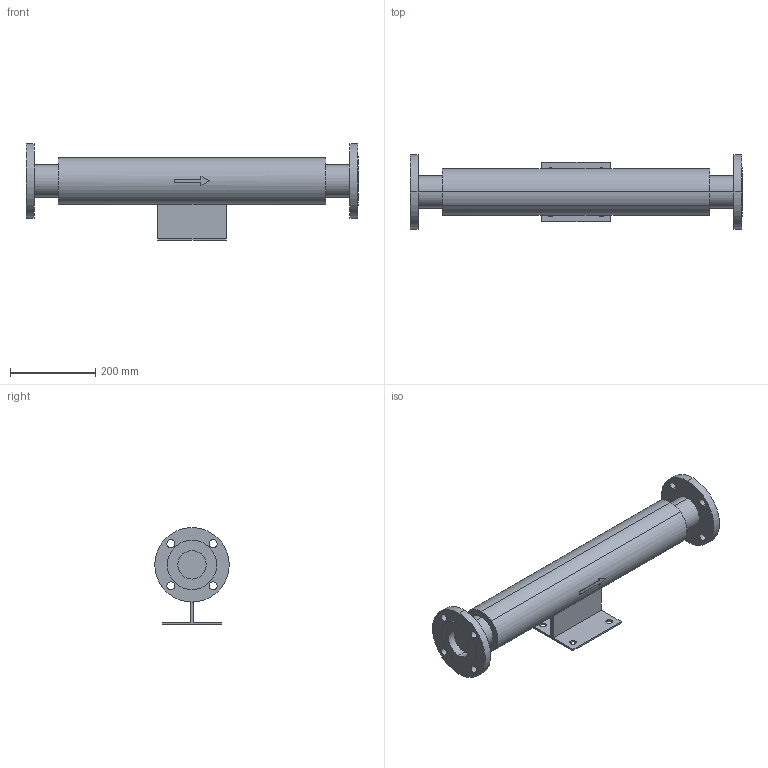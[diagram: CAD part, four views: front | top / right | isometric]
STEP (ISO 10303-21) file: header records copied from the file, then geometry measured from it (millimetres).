
FILE_DESCRIPTION( (''), '2;1');
FILE_NAME ('PC1027.10420.EB-2J　65A_2650.stp','2025-07-29T14:17:19',(''),(''),'spGate 20.6.3 (****-****-****-****)','','');
FILE_SCHEMA (('AUTOMOTIVE_DESIGN'));
Length unit declared in the file: millimetre
Bounding box: 780 x 175 x 227.5 mm (x, y, z)
Volume: 7362591.6 mm3; surface area: 444888 mm2
Topology: 1 solids, 1 shells, 77 faces, 194 edges, 130 vertices
Faces by surface type: cylinder 42, plane 35
Entity records: 3921 total; most frequent: CARTESIAN_POINT 451, DIRECTION 396, ORIENTED_EDGE 388, COLOUR_RGB 272, PRESENTATION_STYLE_ASSIGNMENT 272, STYLED_ITEM 272, EDGE_CURVE 194, DRAUGHTING_PRE_DEFINED_CURVE_FONT 194
